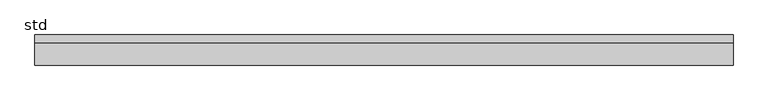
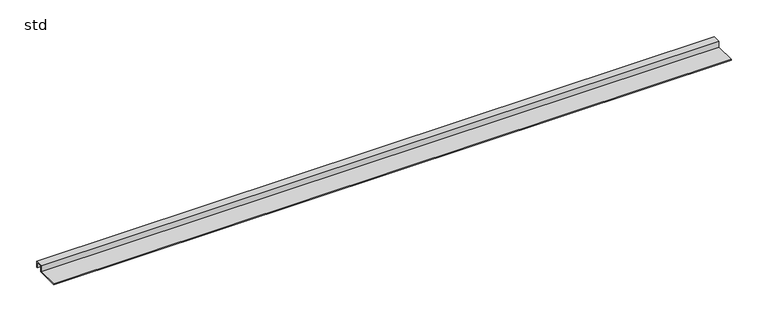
"""IFC4 building model written with IfcOpenShell, lengths in millimetres: sanitary terminal geometry, ZZZ_do not use_PF_ST_showerstep_ACO : std."""

import ifcopenshell
import ifcopenshell.guid

model = None  # the IFC model being written
_history = None  # IfcOwnerHistory: only IFC2X3 demands one
_inside = {}  # id of a spatial element -> (the spatial element, [elements in it])
_under = {}  # id of a project, library or spatial element -> (it, [spatial elements below it])
_declared = {}  # id of a project -> (the project, [libraries it declares])
_typed = {}  # id of a type object -> (the type object, [elements of that type])
_made_of = {}  # id of a material, layer set ... -> (it, [elements and type objects made of it])


def new_model(schema):
    """Start an empty IFC model of exactly this schema.

    Asked for "IFC4X3", IfcOpenShell would pick the latest addendum, in which some entities
    have other attributes; the version numbers below select the first issue.
    IFC2X3 requires an IfcOwnerHistory on every rooted entity: one is made here for all.
    """
    global model, _history
    if schema == "IFC4X3":
        model = ifcopenshell.file(schema_version=(4, 3, 0, 0))
    else:
        model = ifcopenshell.file(schema=schema)
    _inside.clear()
    _under.clear()
    _declared.clear()
    _typed.clear()
    _made_of.clear()
    _history = None
    if model.schema == "IFC2X3":
        org = make("IfcOrganization", Name="unknown")
        user = make(
            "IfcPersonAndOrganization",
            ThePerson=make("IfcPerson", FamilyName="unknown"),
            TheOrganization=org,
        )
        app = make(
            "IfcApplication",
            ApplicationDeveloper=org,
            Version="unknown",
            ApplicationFullName="unknown",
            ApplicationIdentifier="unknown",
        )
        _history = make(
            "IfcOwnerHistory",
            OwningUser=user,
            OwningApplication=app,
            ChangeAction="ADDED",
            CreationDate=0,
        )
    return model


def make(cls, **values):
    """One entity of the class cls with the attributes given. An attribute that is None is left unset."""
    return model.create_entity(
        cls, **{name: value for name, value in values.items() if value is not None}
    )


def rooted(cls, **values):
    """An entity with a GlobalId (a new one), such as an element, a storey or a relation."""
    return make(cls, GlobalId=ifcopenshell.guid.new(), OwnerHistory=_history, **values)


def si_unit(unit_type, name, prefix=None):
    """IfcSIUnit, for example si_unit("LENGTHUNIT", "METRE", prefix="MILLI")."""
    return make("IfcSIUnit", UnitType=unit_type, Prefix=prefix, Name=name)


def assignment(units):
    """IfcUnitAssignment: the units of a project."""
    return None if units is None else make("IfcUnitAssignment", Units=units)


def point(xyz):
    """IfcCartesianPoint."""
    return None if xyz is None else make("IfcCartesianPoint", Coordinates=xyz)


def direction(xyz):
    """IfcDirection."""
    return None if xyz is None else make("IfcDirection", DirectionRatios=xyz)


def frame(location, z_axis=None, x_axis=None):
    """IfcAxis2Placement3D, a coordinate frame: its origin and axes. An axis left out is left unset."""
    return make(
        "IfcAxis2Placement3D",
        Location=point(location),
        Axis=direction(z_axis),
        RefDirection=direction(x_axis),
    )


def origin():
    """The frame at (0, 0, 0) with its axes left unset."""
    return frame((0.0, 0.0, 0.0))


def place(relative_to, where):
    """IfcLocalPlacement: puts the frame where relative to a parent placement (None: the world)."""
    return make(
        "IfcLocalPlacement", PlacementRelTo=relative_to, RelativePlacement=where
    )


def context(
    kind, dimensions, precision=None, world=None, true_north=None, identifier=None
):
    """IfcGeometricRepresentationContext, for example the 3D "Model" context."""
    return make(
        "IfcGeometricRepresentationContext",
        ContextIdentifier=identifier,
        ContextType=kind,
        CoordinateSpaceDimension=dimensions,
        Precision=precision,
        WorldCoordinateSystem=world,
        TrueNorth=true_north,
    )


def project(units=None, contexts=None):
    """IfcProject with its units and contexts."""
    return rooted(
        "IfcProject",
        Name="project",
        RepresentationContexts=contexts,
        UnitsInContext=assignment(units),
    )


def spatial(cls, under=None, at=None, **own):
    """A site, building, storey or space (cls), placed at a placement, below another one or the project."""
    s = rooted(cls, ObjectPlacement=at, **own)
    if under is not None:
        _under.setdefault(under.id(), (under, []))[1].append(s)
    return s


def faces_of(points, faces, orient=None, outer=None):
    """IfcFace entities. A face is a list of loops; a loop is a list of indices into points, from 0.

    orient and outer hold one flag for each loop. By default every Orientation is true, the
    first loop of a face is its IfcFaceOuterBound and the others are IfcFaceBound.
    """
    made = []
    for i, loops in enumerate(faces):
        bounds = []
        for j, loop in enumerate(loops):
            is_outer = j == 0 if outer is None else outer[i][j]
            bounds.append(
                make(
                    "IfcFaceOuterBound" if is_outer else "IfcFaceBound",
                    Bound=make("IfcPolyLoop", Polygon=[points[k] for k in loop]),
                    Orientation=True if orient is None else orient[i][j],
                )
            )
        made.append(make("IfcFace", Bounds=bounds))
    return made


def faceted_brep(points, faces, orient=None, outer=None, voids=None):
    """IfcFacetedBrep: a solid bounded by flat faces; with voids (closed shells), ...WithVoids."""
    shared = [point(p) for p in points]
    hull = make("IfcClosedShell", CfsFaces=faces_of(shared, faces, orient, outer))
    if voids is None:
        return make("IfcFacetedBrep", Outer=hull)
    return make(
        "IfcFacetedBrepWithVoids",
        Outer=hull,
        Voids=[
            make(cls, CfsFaces=faces_of(shared, fs, o, b)) for cls, fs, o, b in voids
        ],
    )


def shape(context_of_items, identifier, shape_type, items):
    """IfcShapeRepresentation: the items that make up one representation, for example the "Body"."""
    return make(
        "IfcShapeRepresentation",
        ContextOfItems=context_of_items,
        RepresentationIdentifier=identifier,
        RepresentationType=shape_type,
        Items=items,
    )


def source(mapping_origin, context_of_items, identifier, shape_type, items):
    """IfcRepresentationMap: a shape defined once, which mapped items show again and again."""
    return make(
        "IfcRepresentationMap",
        MappingOrigin=mapping_origin,
        MappedRepresentation=shape(context_of_items, identifier, shape_type, items),
    )


def transform(
    local_origin,
    x_axis=None,
    y_axis=None,
    z_axis=None,
    scale=None,
    scale2=None,
    scale3=None,
    uniform=True,
):
    """IfcCartesianTransformationOperator3D, or its non-uniform kind. x_axis, y_axis, z_axis: its Axis1, 2, 3."""
    if uniform:
        return make(
            "IfcCartesianTransformationOperator3D",
            Axis1=direction(x_axis),
            Axis2=direction(y_axis),
            LocalOrigin=point(local_origin),
            Scale=scale,
            Axis3=direction(z_axis),
        )
    return make(
        "IfcCartesianTransformationOperator3DnonUniform",
        Axis1=direction(x_axis),
        Axis2=direction(y_axis),
        LocalOrigin=point(local_origin),
        Scale=scale,
        Axis3=direction(z_axis),
        Scale2=scale2,
        Scale3=scale3,
    )


def mapped(mapping_source, mapping_target):
    """IfcMappedItem: shows the shape of a source again, moved by a transform."""
    return make(
        "IfcMappedItem", MappingSource=mapping_source, MappingTarget=mapping_target
    )


def made_of(thing, what):
    """Note that an element or type object is made of a material, layer set ...; save() writes the relation."""
    if what is not None:
        _made_of.setdefault(what.id(), (what, []))[1].append(thing)
    return thing


def element(
    cls,
    number,
    at=None,
    inside=None,
    cuts=None,
    type_object=None,
    material=None,
    context=None,
    identifier="Body",
    shape_type=None,
    held_by="IfcProductDefinitionShape",
    body=None,
    shapes=None,
    **own,
):
    """One element of the class cls, such as IfcWall. Its Tag is "e" and its number.

    at: its placement. inside: the storey or other place that contains it. cuts: it is an
    opening in that element (IfcRelVoidsElement). A single representation is given by context,
    identifier, shape_type and body (its items); several are given by shapes. held_by: the class
    of the entity that holds the representations. save() writes the other relations.
    """
    e = rooted(cls, Tag="e%d" % number, ObjectPlacement=at, **own)
    if body is not None:
        shapes = [shape(context, identifier, shape_type, body)]
    if shapes is not None:
        e.Representation = make(held_by, Representations=shapes)
    if inside is not None:
        _inside.setdefault(inside.id(), (inside, []))[1].append(e)
    if cuts is not None:
        rooted(
            "IfcRelVoidsElement", RelatingBuildingElement=cuts, RelatedOpeningElement=e
        )
    if type_object is not None:
        _typed.setdefault(type_object.id(), (type_object, []))[1].append(e)
    return made_of(e, material)


def aggregate(whole, parts):
    """IfcRelAggregates: a whole, such as a stair, and the parts it consists of."""
    return rooted("IfcRelAggregates", RelatingObject=whole, RelatedObjects=parts)


def save(model, path):
    """Write the relations noted so far, then the file.

    IfcRelAggregates (storeys below a building ...), IfcRelContainedInSpatialStructure (elements
    in a storey), IfcRelDefinesByType, IfcRelAssociatesMaterial and IfcRelDeclares: one each for
    every whole, place, type object, material and project.
    """
    for whole, parts in _under.values():
        aggregate(whole, parts)
    for where, things in _inside.values():
        rooted(
            "IfcRelContainedInSpatialStructure",
            RelatedElements=things,
            RelatingStructure=where,
        )
    for kind, things in _typed.values():
        rooted("IfcRelDefinesByType", RelatedObjects=things, RelatingType=kind)
    for what, things in _made_of.values():
        rooted("IfcRelAssociatesMaterial", RelatedObjects=things, RelatingMaterial=what)
    for by, libraries in _declared.values():
        rooted("IfcRelDeclares", RelatingContext=by, RelatedDefinitions=libraries)
    model.write(path)


def std_90f46c42(model_context):
    return source(origin(), model_context, "Body", "Brep", [
        faceted_brep([(0.0, -1.0, -10.0), (0.0, -1.0, -1.0), (0.0, -11.0004219, -1.0), (0.0, -11.0004219, -11.0), (0.0, -46.0004219, -11.0), (0.0, -46.0004219, -10.0), (0.0, -12.0076915, -10.0), (0.0, -12.0076915, 0.0), (0.0, 0.0, 0.0), (0.0, 0.0, -10.0), (1066.0, 0.0, -28.6013423), (1066.0, -1.0, -28.6013423), (1066.0, 0.0, 0.0), (1066.0, -12.0076915, 0.0), (1066.0, -12.0076915, -10.0), (1066.0, -46.0004219, -10.0), (1066.0, -46.0004219, -11.0), (1066.0, -11.0004219, -11.0), (1066.0, -11.0004219, -1.0), (1066.0, -1.0, -1.0)], [[[0, 1, 2, 3, 4, 5, 6, 7, 8, 9]], [[0, 9, 10, 11]], [[9, 8, 12, 10]], [[8, 7, 13, 12]], [[7, 6, 14, 13]], [[6, 5, 15, 14]], [[5, 4, 16, 15]], [[4, 3, 17, 16]], [[3, 2, 18, 17]], [[2, 1, 19, 18]], [[1, 0, 11, 19]], [[11, 10, 12, 13, 14, 15, 16, 17, 18, 19]]]),
    ])


if __name__ == "__main__":
    model = new_model("IFC4")
    model_context = context("Model", 3, world=origin())
    ifc_project = project(units=[si_unit("LENGTHUNIT", "METRE", prefix="MILLI")], contexts=[model_context])
    site = spatial("IfcSite", under=ifc_project)
    building = spatial("IfcBuilding", under=site)
    placement = place(None, origin())
    std_shape = std_90f46c42(model_context)
    element("IfcSanitaryTerminal", 1, ObjectType="ZZZ_do not use_PF_ST_showerstep_ACO : std", at=placement, inside=building, context=model_context, shape_type="MappedRepresentation", body=[
        mapped(std_shape, transform((0.0, 0.0, 0.0), x_axis=(1.0, 0.0, 0.0), y_axis=(0.0, 1.0, 0.0), z_axis=(0.0, 0.0, 1.0))),
    ])
    save(model, "model.ifc")
